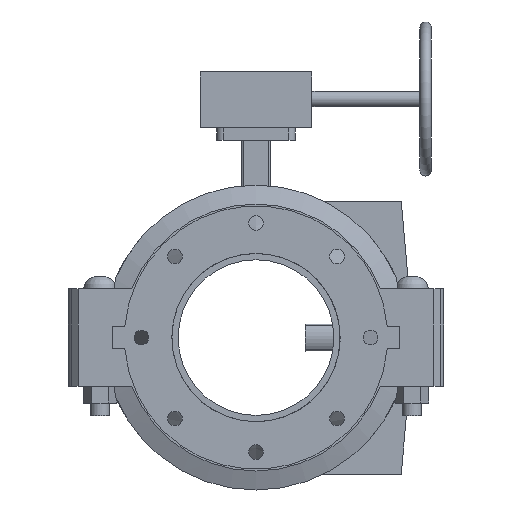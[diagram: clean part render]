
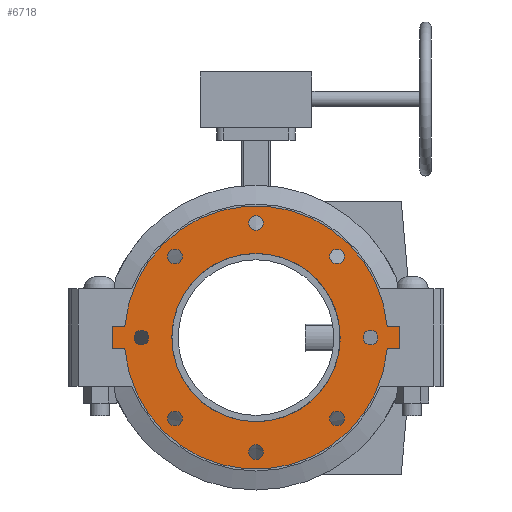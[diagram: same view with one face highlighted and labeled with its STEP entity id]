
A CAD part, front view. The second image highlights one B-rep face of the part: STEP entity #6718.
In plain terms, the highlighted planar face has unit normal (0, -1, 0) as drawn and (0, 0, -1) by its records, which use the part's own axes.
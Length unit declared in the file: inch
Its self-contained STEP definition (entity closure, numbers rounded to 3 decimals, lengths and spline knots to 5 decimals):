
#169=FACE_BOUND('',#869,.T.);
#170=FACE_BOUND('',#870,.T.);
#171=FACE_BOUND('',#871,.T.);
#172=FACE_BOUND('',#872,.T.);
#173=FACE_BOUND('',#873,.T.);
#174=FACE_BOUND('',#874,.T.);
#175=FACE_BOUND('',#875,.T.);
#176=FACE_BOUND('',#876,.T.);
#177=FACE_BOUND('',#877,.T.);
#261=PLANE('',#7323);
#496=FACE_OUTER_BOUND('',#868,.T.);
#868=EDGE_LOOP('',(#4336,#4337,#4338,#4339,#4340,#4341,#4342,#4343));
#869=EDGE_LOOP('',(#4344));
#870=EDGE_LOOP('',(#4345));
#871=EDGE_LOOP('',(#4346));
#872=EDGE_LOOP('',(#4347));
#873=EDGE_LOOP('',(#4348));
#874=EDGE_LOOP('',(#4349));
#875=EDGE_LOOP('',(#4350));
#876=EDGE_LOOP('',(#4351));
#877=EDGE_LOOP('',(#4352,#4353));
#1332=LINE('',#10222,#1826);
#1333=LINE('',#10224,#1827);
#1334=LINE('',#10226,#1828);
#1335=LINE('',#10230,#1829);
#1336=LINE('',#10232,#1830);
#1337=LINE('',#10233,#1831);
#1826=VECTOR('',#8153,0.3937);
#1827=VECTOR('',#8154,0.3937);
#1828=VECTOR('',#8155,0.3937);
#1829=VECTOR('',#8158,0.3937);
#1830=VECTOR('',#8159,0.3937);
#1831=VECTOR('',#8160,0.3937);
#2313=CIRCLE('',#7301,0.375);
#2315=CIRCLE('',#7304,0.375);
#2317=CIRCLE('',#7307,0.375);
#2319=CIRCLE('',#7310,0.375);
#2321=CIRCLE('',#7313,0.375);
#2323=CIRCLE('',#7316,0.375);
#2325=CIRCLE('',#7319,0.375);
#2327=CIRCLE('',#7322,0.375);
#2328=CIRCLE('',#7324,6.75);
#2329=CIRCLE('',#7325,6.75);
#2330=CIRCLE('',#7326,4.3125);
#2331=CIRCLE('',#7327,4.3125);
#2703=VERTEX_POINT('',#10172);
#2705=VERTEX_POINT('',#10178);
#2707=VERTEX_POINT('',#10184);
#2709=VERTEX_POINT('',#10190);
#2711=VERTEX_POINT('',#10196);
#2713=VERTEX_POINT('',#10202);
#2715=VERTEX_POINT('',#10208);
#2717=VERTEX_POINT('',#10214);
#2718=VERTEX_POINT('',#10218);
#2719=VERTEX_POINT('',#10219);
#2720=VERTEX_POINT('',#10221);
#2721=VERTEX_POINT('',#10223);
#2722=VERTEX_POINT('',#10225);
#2723=VERTEX_POINT('',#10227);
#2724=VERTEX_POINT('',#10229);
#2725=VERTEX_POINT('',#10231);
#2726=VERTEX_POINT('',#10234);
#2727=VERTEX_POINT('',#10235);
#3354=EDGE_CURVE('',#2703,#2703,#2313,.T.);
#3357=EDGE_CURVE('',#2705,#2705,#2315,.T.);
#3360=EDGE_CURVE('',#2707,#2707,#2317,.T.);
#3363=EDGE_CURVE('',#2709,#2709,#2319,.T.);
#3366=EDGE_CURVE('',#2711,#2711,#2321,.T.);
#3369=EDGE_CURVE('',#2713,#2713,#2323,.T.);
#3372=EDGE_CURVE('',#2715,#2715,#2325,.T.);
#3375=EDGE_CURVE('',#2717,#2717,#2327,.T.);
#3376=EDGE_CURVE('',#2718,#2719,#2328,.T.);
#3377=EDGE_CURVE('',#2719,#2720,#1332,.T.);
#3378=EDGE_CURVE('',#2720,#2721,#1333,.T.);
#3379=EDGE_CURVE('',#2721,#2722,#1334,.T.);
#3380=EDGE_CURVE('',#2722,#2723,#2329,.T.);
#3381=EDGE_CURVE('',#2723,#2724,#1335,.T.);
#3382=EDGE_CURVE('',#2724,#2725,#1336,.T.);
#3383=EDGE_CURVE('',#2725,#2718,#1337,.T.);
#3384=EDGE_CURVE('',#2726,#2727,#2330,.T.);
#3385=EDGE_CURVE('',#2727,#2726,#2331,.T.);
#4336=ORIENTED_EDGE('',*,*,#3376,.T.);
#4337=ORIENTED_EDGE('',*,*,#3377,.T.);
#4338=ORIENTED_EDGE('',*,*,#3378,.T.);
#4339=ORIENTED_EDGE('',*,*,#3379,.T.);
#4340=ORIENTED_EDGE('',*,*,#3380,.T.);
#4341=ORIENTED_EDGE('',*,*,#3381,.T.);
#4342=ORIENTED_EDGE('',*,*,#3382,.T.);
#4343=ORIENTED_EDGE('',*,*,#3383,.T.);
#4344=ORIENTED_EDGE('',*,*,#3354,.T.);
#4345=ORIENTED_EDGE('',*,*,#3357,.T.);
#4346=ORIENTED_EDGE('',*,*,#3360,.T.);
#4347=ORIENTED_EDGE('',*,*,#3363,.T.);
#4348=ORIENTED_EDGE('',*,*,#3366,.T.);
#4349=ORIENTED_EDGE('',*,*,#3369,.T.);
#4350=ORIENTED_EDGE('',*,*,#3372,.T.);
#4351=ORIENTED_EDGE('',*,*,#3375,.T.);
#4352=ORIENTED_EDGE('',*,*,#3384,.T.);
#4353=ORIENTED_EDGE('',*,*,#3385,.T.);
#6718=ADVANCED_FACE('',(#496,#169,#170,#171,#172,#173,#174,#175,#176,#177),
#261,.T.);
#7301=AXIS2_PLACEMENT_3D('',#10174,#8098,#8099);
#7304=AXIS2_PLACEMENT_3D('',#10180,#8105,#8106);
#7307=AXIS2_PLACEMENT_3D('',#10186,#8112,#8113);
#7310=AXIS2_PLACEMENT_3D('',#10192,#8119,#8120);
#7313=AXIS2_PLACEMENT_3D('',#10198,#8126,#8127);
#7316=AXIS2_PLACEMENT_3D('',#10204,#8133,#8134);
#7319=AXIS2_PLACEMENT_3D('',#10210,#8140,#8141);
#7322=AXIS2_PLACEMENT_3D('',#10216,#8147,#8148);
#7323=AXIS2_PLACEMENT_3D('',#10217,#8149,#8150);
#7324=AXIS2_PLACEMENT_3D('',#10220,#8151,#8152);
#7325=AXIS2_PLACEMENT_3D('',#10228,#8156,#8157);
#7326=AXIS2_PLACEMENT_3D('',#10236,#8161,#8162);
#7327=AXIS2_PLACEMENT_3D('',#10237,#8163,#8164);
#8098=DIRECTION('center_axis',(0.,0.,1.));
#8099=DIRECTION('ref_axis',(-0.707,0.707,0.));
#8105=DIRECTION('center_axis',(0.,0.,1.));
#8106=DIRECTION('ref_axis',(0.,1.,0.));
#8112=DIRECTION('center_axis',(0.,0.,1.));
#8113=DIRECTION('ref_axis',(0.707,0.707,0.));
#8119=DIRECTION('center_axis',(0.,0.,1.));
#8120=DIRECTION('ref_axis',(1.,0.,0.));
#8126=DIRECTION('center_axis',(0.,0.,1.));
#8127=DIRECTION('ref_axis',(0.707,-0.707,0.));
#8133=DIRECTION('center_axis',(0.,0.,1.));
#8134=DIRECTION('ref_axis',(0.,-1.,0.));
#8140=DIRECTION('center_axis',(0.,0.,1.));
#8141=DIRECTION('ref_axis',(-0.707,-0.707,0.));
#8147=DIRECTION('center_axis',(0.,0.,1.));
#8148=DIRECTION('ref_axis',(-1.,0.,0.));
#8149=DIRECTION('center_axis',(0.,0.,-1.));
#8150=DIRECTION('ref_axis',(-1.,0.,0.));
#8151=DIRECTION('center_axis',(0.,0.,-1.));
#8152=DIRECTION('ref_axis',(-1.,0.,0.));
#8153=DIRECTION('',(0.,1.,0.));
#8154=DIRECTION('',(1.,0.,0.));
#8155=DIRECTION('',(0.,-1.,0.));
#8156=DIRECTION('center_axis',(0.,0.,-1.));
#8157=DIRECTION('ref_axis',(-1.,0.,0.));
#8158=DIRECTION('',(0.,-1.,0.));
#8159=DIRECTION('',(-1.,0.,0.));
#8160=DIRECTION('',(0.,1.,0.));
#8161=DIRECTION('center_axis',(0.,0.,1.));
#8162=DIRECTION('ref_axis',(-1.,0.,0.));
#8163=DIRECTION('center_axis',(0.,0.,1.));
#8164=DIRECTION('ref_axis',(-1.,0.,0.));
#10172=CARTESIAN_POINT('',(-3.88909,3.88909,-0.565));
#10174=CARTESIAN_POINT('Origin',(-4.15425,4.15425,-0.565));
#10178=CARTESIAN_POINT('',(0.,5.5,-0.565));
#10180=CARTESIAN_POINT('Origin',(0.,5.875,-0.565));
#10184=CARTESIAN_POINT('',(3.88909,3.88909,-0.565));
#10186=CARTESIAN_POINT('Origin',(4.15425,4.15425,-0.565));
#10190=CARTESIAN_POINT('',(5.5,0.,-0.565));
#10192=CARTESIAN_POINT('Origin',(5.875,0.,-0.565));
#10196=CARTESIAN_POINT('',(3.88909,-3.88909,-0.565));
#10198=CARTESIAN_POINT('Origin',(4.15425,-4.15425,-0.565));
#10202=CARTESIAN_POINT('',(0.,-5.5,-0.565));
#10204=CARTESIAN_POINT('Origin',(0.,-5.875,-0.565));
#10208=CARTESIAN_POINT('',(-3.88909,-3.88909,-0.565));
#10210=CARTESIAN_POINT('Origin',(-4.15425,-4.15425,-0.565));
#10214=CARTESIAN_POINT('',(-5.5,0.,-0.565));
#10216=CARTESIAN_POINT('Origin',(-5.875,0.,-0.565));
#10217=CARTESIAN_POINT('Origin',(0.,0.,-0.565));
#10218=CARTESIAN_POINT('',(-0.565,-6.72631,-0.565));
#10219=CARTESIAN_POINT('',(-0.565,6.72631,-0.565));
#10220=CARTESIAN_POINT('Origin',(0.,0.,-0.565));
#10221=CARTESIAN_POINT('',(-0.565,7.375,-0.565));
#10222=CARTESIAN_POINT('',(-0.565,-7.375,-0.565));
#10223=CARTESIAN_POINT('',(0.565,7.375,-0.565));
#10224=CARTESIAN_POINT('',(-0.565,7.375,-0.565));
#10225=CARTESIAN_POINT('',(0.565,6.72631,-0.565));
#10226=CARTESIAN_POINT('',(0.565,7.375,-0.565));
#10227=CARTESIAN_POINT('',(0.565,-6.72631,-0.565));
#10228=CARTESIAN_POINT('Origin',(0.,0.,-0.565));
#10229=CARTESIAN_POINT('',(0.565,-7.375,-0.565));
#10230=CARTESIAN_POINT('',(0.565,7.375,-0.565));
#10231=CARTESIAN_POINT('',(-0.565,-7.375,-0.565));
#10232=CARTESIAN_POINT('',(0.565,-7.375,-0.565));
#10233=CARTESIAN_POINT('',(-0.565,-7.375,-0.565));
#10234=CARTESIAN_POINT('',(0.565,4.27533,-0.565));
#10235=CARTESIAN_POINT('',(4.3125,0.,-0.565));
#10236=CARTESIAN_POINT('Origin',(0.,0.,-0.565));
#10237=CARTESIAN_POINT('Origin',(0.,0.,-0.565));
